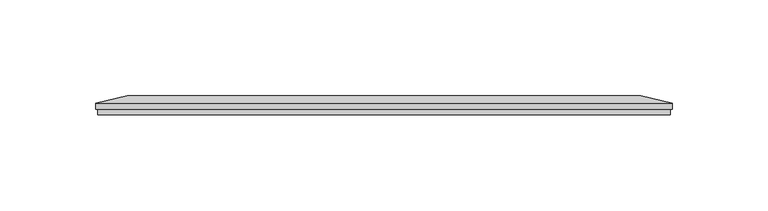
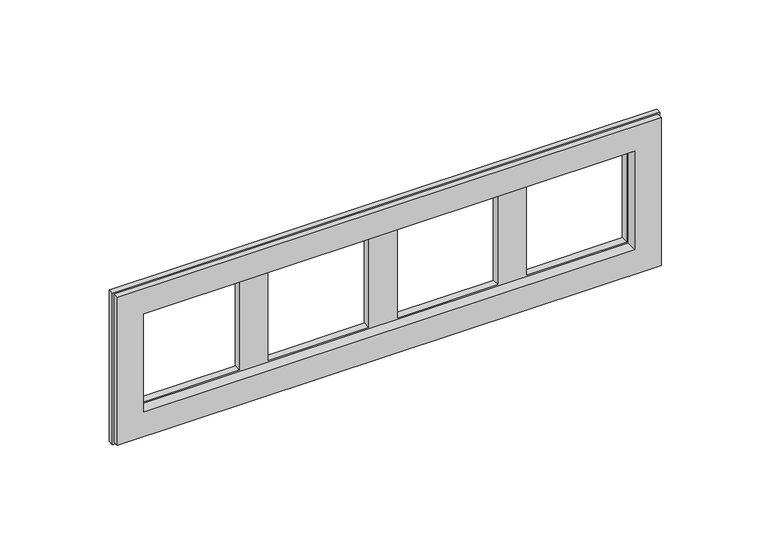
"""IFC4 building model written with IfcOpenShell, lengths in millimetres: proxy geometry, IEK_Brite_Рамка : x4_РУ-4-Бр алюм.-алюм.."""

from ifc_helpers import new_model, si_unit, frame, origin, place, context, project, spatial, polyline, outline, extrude, faceted_brep, source, transform, mapped, element, save


def electrical_fixtures_3838953b(model_context):
    return source(origin(), model_context, "Body", "SolidModel", [
        extrude(outline(polyline([(43.0, -256.0), (-43.0, -256.0), (-43.0, 43.0), (43.0, 43.0), (43.0, -256.0)]), holes=[polyline([(28.5, -241.5), (28.5, 28.5), (-28.5, 28.5), (-28.5, -241.5), (28.5, -241.5)])]), frame((0.0, 0.0, 0.0), z_axis=(0.0, 1.0, 0.0), x_axis=(0.0, 0.0, 1.0)), (0.0, 0.0, 1.0), 6.0),
        faceted_brep([(-185.5, 10.0, -27.5), (-185.5, 10.0, 27.5), (-169.5, 10.0, 27.5), (-169.5, 10.0, -27.5), (-114.5, 10.0, -27.5), (-114.5, 10.0, 27.5), (-98.5, 10.0, 27.5), (-98.5, 10.0, -27.5), (-27.5, 10.0, 27.5), (-27.5, 10.0, -27.5), (-43.5, 10.0, -27.5), (-43.5, 10.0, 27.5), (43.0, 6.0, 43.0), (-256.0, 6.0, 43.0), (-256.0, 6.0, -43.0), (43.0, 6.0, -43.0), (-240.5, 6.0, -27.5), (-240.5, 6.0, 27.5), (-185.5, 6.0, 27.5), (-185.5, 6.0, -27.5), (-169.5, 6.0, -27.5), (-169.5, 6.0, 27.5), (-114.5, 6.0, 27.5), (-114.5, 6.0, -27.5), (-98.5, 6.0, -27.5), (-98.5, 6.0, 27.5), (-43.5, 6.0, 27.5), (-43.5, 6.0, -27.5), (-27.5, 6.0, -27.5), (-27.5, 6.0, 27.5), (27.5, 6.0, 27.5), (27.5, 6.0, -27.5), (44.0, 6.0, 44.0), (27.5, 10.0, 27.5), (-240.5, 10.0, 27.5), (-257.0, 6.0, 44.0), (44.0, 6.0, -44.0), (27.5, 10.0, -27.5), (-257.0, 6.0, -44.0), (-240.5, 10.0, -27.5), (-257.0, 3.0, 44.0), (-257.0, 3.0, -44.0), (44.0, 3.0, -44.0), (44.0, 3.0, 44.0), (-256.0, 3.0, 43.0), (43.0, 3.0, 43.0), (43.0, 3.0, -43.0), (-256.0, 3.0, -43.0)], [[[0, 1, 2, 3]], [[4, 5, 6, 7]], [[8, 9, 10, 11]], [[12, 13, 14, 15], [16, 17, 18, 19], [20, 21, 22, 23], [24, 25, 26, 27], [28, 29, 30, 31]], [[32, 33, 8, 11, 6, 5, 2, 1, 34, 35]], [[33, 32, 36, 37]], [[37, 36, 38, 39, 0, 3, 4, 7, 10, 9]], [[35, 34, 39, 38]], [[40, 41, 42, 43], [44, 45, 46, 47]], [[41, 40, 35, 38]], [[42, 41, 38, 36]], [[43, 42, 36, 32]], [[40, 43, 32, 35]], [[45, 44, 13, 12]], [[46, 45, 12, 15]], [[47, 46, 15, 14]], [[44, 47, 14, 13]], [[34, 17, 16, 39]], [[39, 16, 19, 0]], [[0, 19, 18, 1]], [[17, 34, 1, 18]], [[2, 21, 20, 3]], [[3, 20, 23, 4]], [[4, 23, 22, 5]], [[21, 2, 5, 22]], [[6, 25, 24, 7]], [[7, 24, 27, 10]], [[10, 27, 26, 11]], [[25, 6, 11, 26]], [[8, 29, 28, 9]], [[9, 28, 31, 37]], [[37, 31, 30, 33]], [[29, 8, 33, 30]]]),
    ])


if __name__ == "__main__":
    model = new_model("IFC4")
    model_context = context("Model", 3, world=origin())
    ifc_project = project(units=[si_unit("LENGTHUNIT", "METRE", prefix="MILLI")], contexts=[model_context])
    site = spatial("IfcSite", under=ifc_project)
    building = spatial("IfcBuilding", under=site)
    placement = place(None, origin())
    electrical_fixtures_shape = electrical_fixtures_3838953b(model_context)
    element("IfcBuildingElementProxy", 1, Name="IEK_Brite_Рамка : x4_РУ-4-Бр алюм.-алюм.", ObjectType="IEK_Brite_Рамка : x4_РУ-4-Бр алюм.-алюм.", at=placement, inside=building, context=model_context, shape_type="MappedRepresentation", body=[
        mapped(electrical_fixtures_shape, transform((0.0, 0.0, 0.0), x_axis=(1.0, 0.0, 0.0), y_axis=(0.0, 1.0, 0.0), z_axis=(0.0, 0.0, 1.0))),
    ])
    save(model, "model.ifc")
